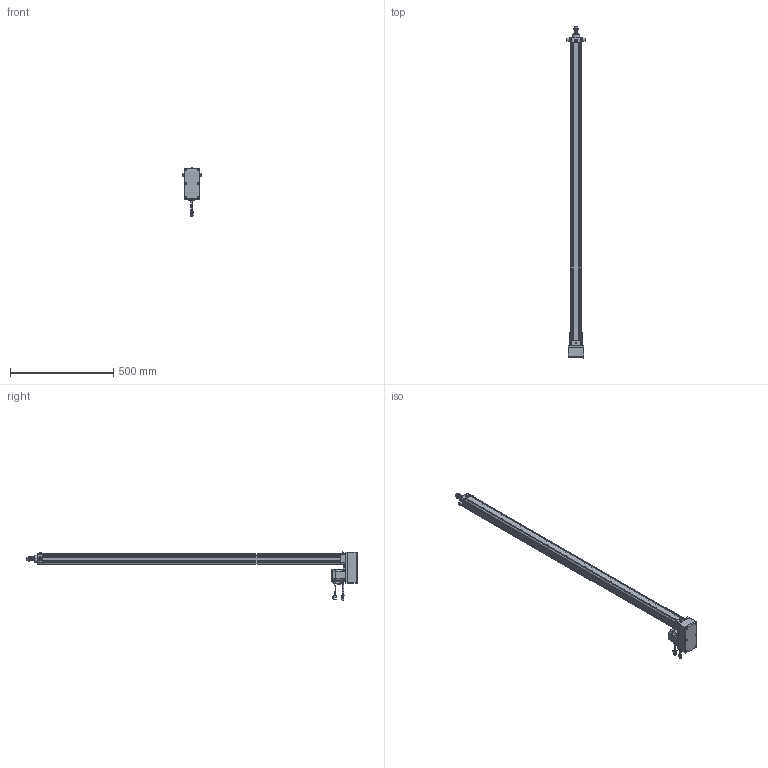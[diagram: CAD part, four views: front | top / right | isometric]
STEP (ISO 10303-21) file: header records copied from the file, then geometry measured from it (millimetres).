
FILE_DESCRIPTION((''),'2;1');
FILE_NAME('HE40-D-100_ASM','2020-05-26T',('ASUS20200'),(''),'CREO PARAMETRIC BY PTC INC, 2014190','CREO PARAMETRIC BY PTC INC, 2014190','');
FILE_SCHEMA(('CONFIG_CONTROL_DESIGN'));
Length unit declared in the file: millimetre
Products named in the file (33): HE40-D-P-001-X1; HE40-D-P-002-X1; HE40-D-P-003-X1; 6200ZZ; SLM-01; YZ-M6X1; JDB202820; HE40-P-010-X1-200W; _MHMF022L1A2; _CABLE_MOTOR_BOTTOM_03; _CABLE_MOTOR_TOP_03; _MOTOR_CONNECTOR_2; _CABLE_BRAKE_BOTTOM_03; _CABLE_BRAKE_TOP_03; _MHMF_CONNECTOR_9_PIN_A6; MHMF022L1A2M2_1_ASM; MHMF022L1A2M2_ASM; JX5X5X20; TD-5; M5X20; LM-M6X1; M6X25; LM-M6-15; M6; HE40-P-012-X2; HE40-P-014-X1; M4X65; HE40-TC; HE40-D-P-005-X1; HE40-D-P-004-X1; HE40-D-P-008-X1; LGLM-M6-22; HE40-D-100_ASM
Assembly tree (50 placements, depth 4):
  HE40-D-100_ASM
    HE40-D-P-001-X1
    HE40-D-P-002-X1
    HE40-D-P-003-X1
    6200ZZ
    SLM-01
    YZ-M6X1
    JDB202820
    HE40-P-010-X1-200W
    MHMF022L1A2M2_ASM
      MHMF022L1A2M2_1_ASM
        _MHMF022L1A2
        _CABLE_MOTOR_BOTTOM_03
        _CABLE_MOTOR_TOP_03
        _MOTOR_CONNECTOR_2
        _CABLE_BRAKE_BOTTOM_03
        _CABLE_BRAKE_TOP_03
        _MHMF_CONNECTOR_9_PIN_A6
    JX5X5X20
    TD-5  x4
    M5X20  x4
    LM-M6X1  x4
    M6X25
    LM-M6-15
    M6
    HE40-P-012-X2
    HE40-P-014-X1
    M4X65  x6
    HE40-TC  x2
    HE40-D-P-005-X1
    HE40-D-P-004-X1
    HE40-D-P-008-X1
    LGLM-M6-22  x4
Bounding box: 91 x 1607.5 x 232.7 mm (x, y, z)
Volume: 2165456.5 mm3; surface area: 895787 mm2
Topology: 48 solids, 77 shells, 2631 faces, 6306 edges, 3915 vertices
Faces by surface type: plane 1108, cylinder 739, cone 604, torus 142, sphere 34, bspline 4
Entity records: 67615 total; most frequent: CARTESIAN_POINT 13225, DIRECTION 11913, ORIENTED_EDGE 10644, EDGE_CURVE 5380, AXIS2_PLACEMENT_3D 4469, VERTEX_POINT 3381, VECTOR 2975, LINE 2975
